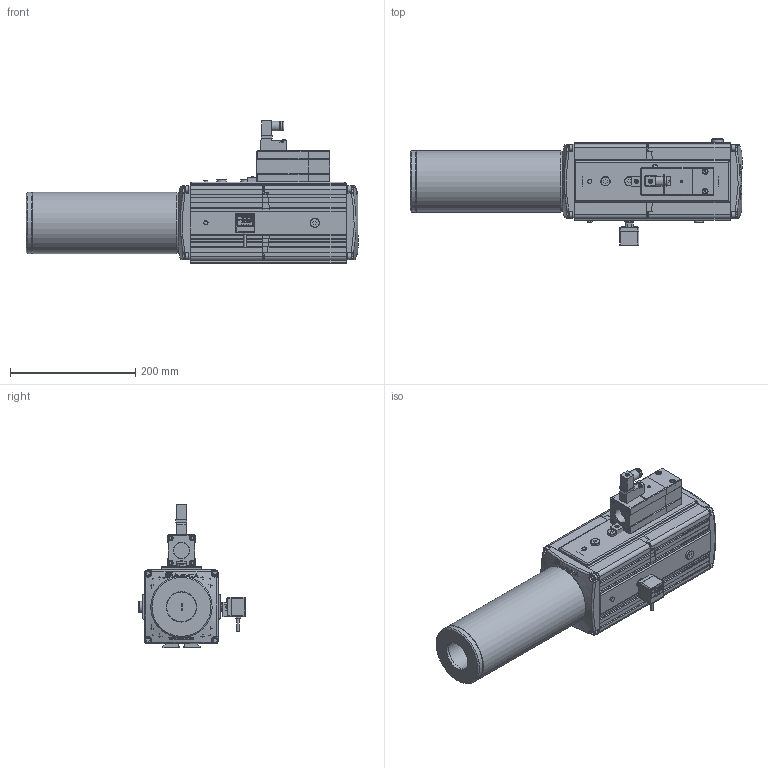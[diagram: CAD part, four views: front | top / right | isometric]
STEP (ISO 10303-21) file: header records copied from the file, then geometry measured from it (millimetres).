
FILE_DESCRIPTION( ( 'Unknown' ), '1' );
FILE_NAME( 'C:/Documents and Settings/Administrator/官帕 拳搁/3D Dimension/MPM303X5-02S-A3-DL-S2.stp', 'Unknown', ( 'Unknown' ), ( 'Unknown' ), 'PSStep 10.0', 'Unknown', ' ' );
FILE_SCHEMA( ( 'AUTOMOTIVE_DESIGN { 1 0 10303 214 1 1 1 1 }' ) );
Length unit declared in the file: millimetre
Products named in the file (22): SILENCER_6_0_1; VMS34-B(DIM)_2; Assem1; BODY-A(ASV)(DIM)_2_0; BODY-B(dim)_2; DIN Valve_1_2_0; COVER_6_0_1; ELEMENT_6_0_0; SPONGE_6_0_0; END CAP_6_0_0; M6-Bolt_0_0_0_0; END CAP-212_0_0_0_0; VTP-M5_0_0_0_0; red_0_0_0_0; VTP18_0_0_0_0; VTP14_0_0_0_0; END CAP-112_0_0_0_0; Body(re1)(dim)_6_0; VTP-M5_10_0_0; VTP18_10_0_0; VP20 T; 18_18
Bounding box: 530 x 169.8 x 228.6 mm (x, y, z)
Volume: 12931658.5 mm3; surface area: 1912398.2 mm2
Topology: 60 solids, 68 shells, 4477 faces, 11016 edges, 7105 vertices
Faces by surface type: plane 2833, cylinder 1042, cone 251, bspline 99, sphere 96, extrusion 88, torus 68
Full cylindrical faces by diameter (mm): 0.435 x2, 0.884 x4, 1.008 x9, 1.5 x6, 1.8 x6, 2.3 x6, 2.5 x3, 3 x6, 3.2 x6, 3.242 x8, 3.4 x12, 4 x8, 4.075 x4, 4.2 x20, 4.5 x12, 4.552 x4, 5 x3, 5.2 x6, 5.4 x4, 5.5 x9, 6 x15, 6.337 x4, 6.5 x16, 6.535 x3, 6.8 x8, 7 x12, 7.2 x3, 7.9 x2, 8 x12, 8.5 x6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
Entity records: 78668 total; most frequent: CARTESIAN_POINT 16647, DIRECTION 9332, ORIENTED_EDGE 9130, EDGE_CURVE 4565, AXIS2_PLACEMENT_3D 3175, VERTEX_POINT 3074, VECTOR 2982, LINE 2938
